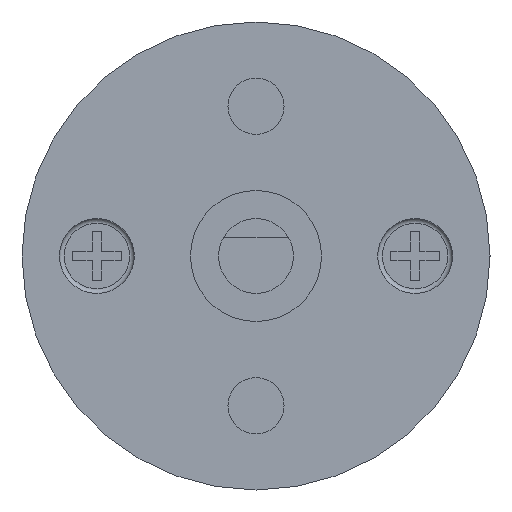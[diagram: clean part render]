
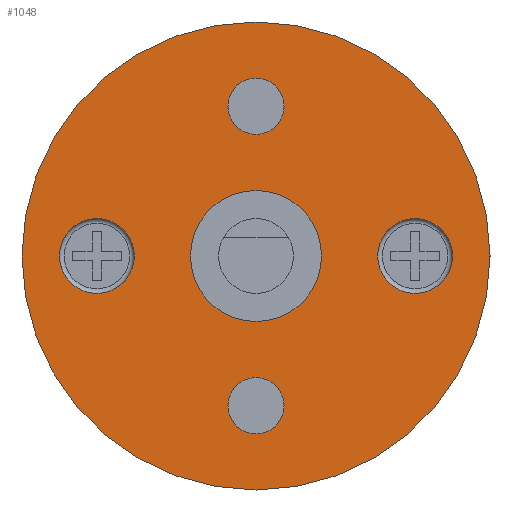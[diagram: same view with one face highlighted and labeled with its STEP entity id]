
A CAD part, left-side view. The second image highlights one B-rep face of the part: STEP entity #1048.
In plain terms, the highlighted planar face has unit normal (-1, 0, 0).
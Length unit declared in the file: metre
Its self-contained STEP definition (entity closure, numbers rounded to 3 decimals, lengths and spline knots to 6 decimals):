
#18=PLANE('',#1230);
#285=ORIENTED_EDGE('',*,*,#547,.F.);
#286=ORIENTED_EDGE('',*,*,#548,.F.);
#287=ORIENTED_EDGE('',*,*,#549,.F.);
#288=ORIENTED_EDGE('',*,*,#550,.F.);
#289=ORIENTED_EDGE('',*,*,#551,.F.);
#290=ORIENTED_EDGE('',*,*,#552,.T.);
#547=EDGE_CURVE('',#679,#679,#776,.T.);
#548=EDGE_CURVE('',#680,#680,#777,.T.);
#549=EDGE_CURVE('',#681,#681,#778,.T.);
#550=EDGE_CURVE('',#682,#682,#779,.T.);
#551=EDGE_CURVE('',#683,#683,#780,.T.);
#552=EDGE_CURVE('',#684,#684,#781,.T.);
#679=VERTEX_POINT('',#1663);
#680=VERTEX_POINT('',#1665);
#681=VERTEX_POINT('',#1667);
#682=VERTEX_POINT('',#1669);
#683=VERTEX_POINT('',#1671);
#684=VERTEX_POINT('',#1673);
#776=CIRCLE('',#1231,0.002);
#777=CIRCLE('',#1232,0.002);
#778=CIRCLE('',#1233,0.0015);
#779=CIRCLE('',#1234,0.0015);
#780=CIRCLE('',#1235,0.0035);
#781=CIRCLE('',#1236,0.0125);
#812=EDGE_LOOP('',(#285));
#813=EDGE_LOOP('',(#286));
#814=EDGE_LOOP('',(#287));
#815=EDGE_LOOP('',(#288));
#816=EDGE_LOOP('',(#289));
#817=EDGE_LOOP('',(#290));
#918=FACE_BOUND('',#812,.T.);
#919=FACE_BOUND('',#813,.T.);
#920=FACE_BOUND('',#814,.T.);
#921=FACE_BOUND('',#815,.T.);
#922=FACE_BOUND('',#816,.T.);
#923=FACE_BOUND('',#817,.T.);
#1048=ADVANCED_FACE('',(#918,#919,#920,#921,#922,#923),#18,.T.);
#1230=AXIS2_PLACEMENT_3D('',#1661,#1354,#1355);
#1231=AXIS2_PLACEMENT_3D('',#1662,#1356,#1357);
#1232=AXIS2_PLACEMENT_3D('',#1664,#1358,#1359);
#1233=AXIS2_PLACEMENT_3D('',#1666,#1360,#1361);
#1234=AXIS2_PLACEMENT_3D('',#1668,#1362,#1363);
#1235=AXIS2_PLACEMENT_3D('',#1670,#1364,#1365);
#1236=AXIS2_PLACEMENT_3D('',#1672,#1366,#1367);
#1354=DIRECTION('',(-1.,0.,0.));
#1355=DIRECTION('',(0.,0.,1.));
#1356=DIRECTION('',(-1.,0.,0.));
#1357=DIRECTION('',(0.,0.,1.));
#1358=DIRECTION('',(-1.,0.,0.));
#1359=DIRECTION('',(0.,0.,1.));
#1360=DIRECTION('',(-1.,0.,0.));
#1361=DIRECTION('',(0.,0.,1.));
#1362=DIRECTION('',(-1.,0.,0.));
#1363=DIRECTION('',(0.,0.,1.));
#1364=DIRECTION('',(-1.,0.,0.));
#1365=DIRECTION('',(0.,0.,1.));
#1366=DIRECTION('',(-1.,0.,0.));
#1367=DIRECTION('',(0.,0.,1.));
#1661=CARTESIAN_POINT('',(-0.021,0.,0.));
#1662=CARTESIAN_POINT('',(-0.021,0.0085,0.));
#1663=CARTESIAN_POINT('',(-0.021,0.0085,0.002));
#1664=CARTESIAN_POINT('',(-0.021,-0.0085,0.));
#1665=CARTESIAN_POINT('',(-0.021,-0.0085,0.002));
#1666=CARTESIAN_POINT('',(-0.021,0.,0.008));
#1667=CARTESIAN_POINT('',(-0.021,0.,0.0095));
#1668=CARTESIAN_POINT('',(-0.021,0.,-0.008));
#1669=CARTESIAN_POINT('',(-0.021,0.,-0.0065));
#1670=CARTESIAN_POINT('',(-0.021,0.,0.));
#1671=CARTESIAN_POINT('',(-0.021,0.,0.0035));
#1672=CARTESIAN_POINT('',(-0.021,0.,0.));
#1673=CARTESIAN_POINT('',(-0.021,0.,0.0125));
